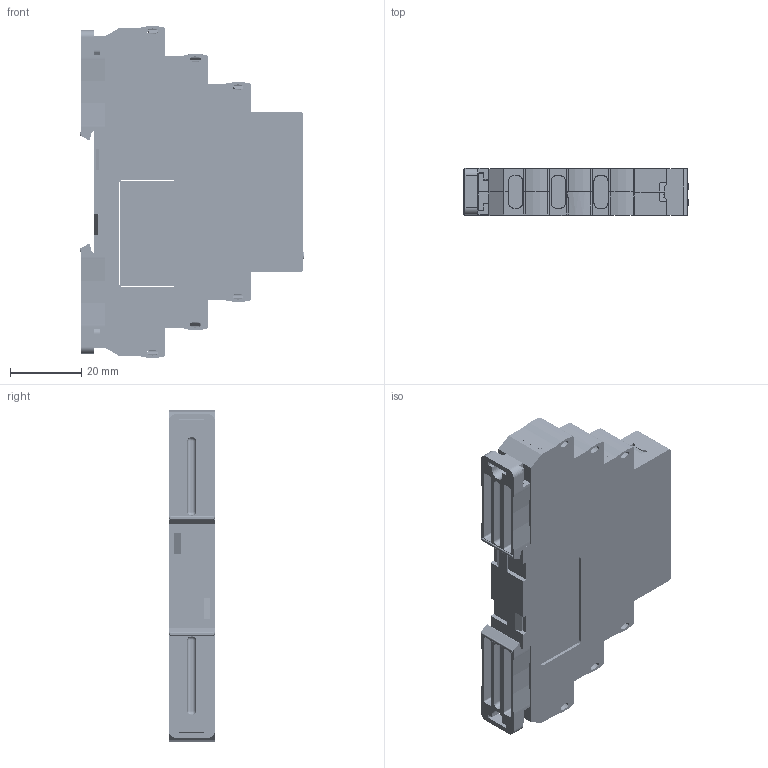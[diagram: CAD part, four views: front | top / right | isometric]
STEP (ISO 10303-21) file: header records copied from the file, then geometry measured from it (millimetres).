
FILE_DESCRIPTION(('STEP AP203'), '1');
FILE_NAME('ﾅﾋ-13ﾓ', '', ('UNSPECIFIED'), ('UNSPECIFIED'), 'ASCON STEP Converter 1.6', 'ASCON Math Kernel', '');
FILE_SCHEMA(('CONFIG_CONTROL_DESIGN'));
Length unit declared in the file: millimetre
Products named in the file (19): Case13-18-23mm_3step_Half_v01b____1_6.5mm; Case13-18-23mm_3step_plug_v01____1_13mm; Case13-18-23mm_2step_Lock_v01a_Build20140909_1552; DG127-5.08-02P-4Y-00AH; Case13_Face
Assembly tree (38 placements, depth 2):
  (unnamed)
    Case13-18-23mm_3step_Half_v01b____1_6.5mm
    Case13-18-23mm_3step_Half_v01b____1_6.5mm
    Case13-18-23mm_3step_plug_v01____1_13mm  x12
    Case13-18-23mm_2step_Lock_v01a_Build20140909_1552  x2
    DG127-5.08-02P-4Y-00AH  x6
    (unnamed)
    (unnamed)
    Case13_Face
    (unnamed)
    (unnamed)
    (unnamed)
    (unnamed)
    (unnamed)
    (unnamed)
    (unnamed)
    (unnamed)  x2
    (unnamed)  x2
    (unnamed)  x2
Bounding box: 63.05 x 13.1 x 93.33 mm (x, y, z)
Volume: 24958.8 mm3; surface area: 36903 mm2
Topology: 296 solids, 297 shells, 14580 faces, 41092 edges, 27320 vertices
Faces by surface type: plane 10442, extrusion 2702, bspline 942, cylinder 456, torus 30, sphere 8
Full cylindrical faces by diameter (mm): 2.1 x4, 3.5 x12, 3.7 x12
Entity records: 507128 total; most frequent: CARTESIAN_POINT 112402, ORIENTED_EDGE 68908, DIRECTION 50577, EDGE_CURVE 34454, VECTOR 30741, LINE 28107, VERTEX_POINT 22934, EDGE_LOOP 12418
